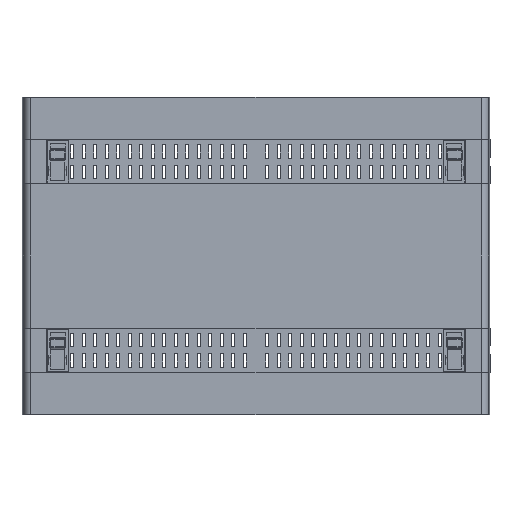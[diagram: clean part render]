
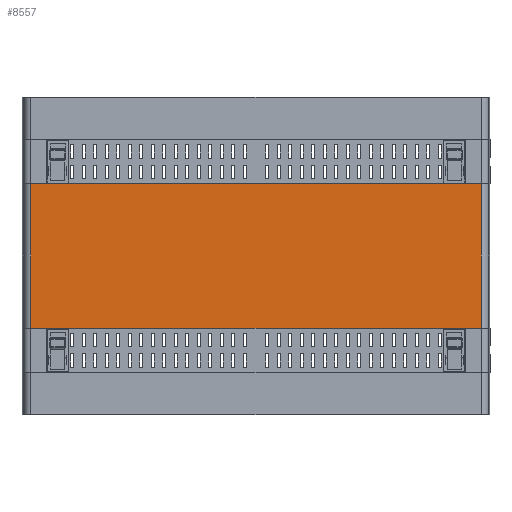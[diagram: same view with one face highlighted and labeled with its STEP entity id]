
A CAD part, front view. The second image highlights one B-rep face of the part: STEP entity #8557.
In plain terms, the highlighted planar face has unit normal (0, -1, 0).
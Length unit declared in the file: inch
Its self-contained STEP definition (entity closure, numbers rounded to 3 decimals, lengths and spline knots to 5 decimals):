
#3517 = AXIS2_PLACEMENT_3D ( 'NONE', #75424, #84813, #28810 ) ;
#3641 = ORIENTED_EDGE ( 'NONE', *, *, #5020, .F. ) ;
#5020 = EDGE_CURVE ( 'NONE', #89413, #39585, #21902, .T. ) ;
#5452 = DIRECTION ( 'NONE',  ( 1., 0., 0. ) ) ;
#6133 = LINE ( 'NONE', #96849, #102738 ) ;
#8557 = ADVANCED_FACE ( 'NONE', ( #108799 ), #19388, .F. ) ;
#8713 = CARTESIAN_POINT ( 'NONE',  ( -6.97974, 0., -2.236 ) ) ;
#10672 = DIRECTION ( 'NONE',  ( 0., 0., -1. ) ) ;
#11880 = ORIENTED_EDGE ( 'NONE', *, *, #89921, .T. ) ;
#14126 = ORIENTED_EDGE ( 'NONE', *, *, #44699, .F. ) ;
#19388 = PLANE ( 'NONE',  #3517 ) ;
#21902 = LINE ( 'NONE', #102245, #65823 ) ;
#22180 = CARTESIAN_POINT ( 'NONE',  ( -6.97974, 0., 4.925 ) ) ;
#28400 = EDGE_LOOP ( 'NONE', ( #11880, #46151, #14126, #3641 ) ) ;
#28810 = DIRECTION ( 'NONE',  ( 0., 0., 1. ) ) ;
#32271 = DIRECTION ( 'NONE',  ( 0., 0., -1. ) ) ;
#39076 = VERTEX_POINT ( 'NONE', #113923 ) ;
#39585 = VERTEX_POINT ( 'NONE', #80812 ) ;
#41311 = VECTOR ( 'NONE', #5452, 39.37008 ) ;
#44699 = EDGE_CURVE ( 'NONE', #39585, #39076, #6133, .T. ) ;
#46151 = ORIENTED_EDGE ( 'NONE', *, *, #100040, .T. ) ;
#54301 = VECTOR ( 'NONE', #10672, 39.37008 ) ;
#59907 = CARTESIAN_POINT ( 'NONE',  ( -6.97974, 0., 2.236 ) ) ;
#65003 = VERTEX_POINT ( 'NONE', #8713 ) ;
#65823 = VECTOR ( 'NONE', #92901, 39.37008 ) ;
#66164 = LINE ( 'NONE', #117110, #41311 ) ;
#75424 = CARTESIAN_POINT ( 'NONE',  ( 6.97974, 0., 4.925 ) ) ;
#79151 = LINE ( 'NONE', #22180, #54301 ) ;
#80812 = CARTESIAN_POINT ( 'NONE',  ( 6.97974, 0., 2.236 ) ) ;
#84813 = DIRECTION ( 'NONE',  ( 0., 1., 0. ) ) ;
#89413 = VERTEX_POINT ( 'NONE', #59907 ) ;
#89921 = EDGE_CURVE ( 'NONE', #89413, #65003, #79151, .T. ) ;
#92901 = DIRECTION ( 'NONE',  ( 1., 0., 0. ) ) ;
#96849 = CARTESIAN_POINT ( 'NONE',  ( 6.97974, 0., 4.925 ) ) ;
#100040 = EDGE_CURVE ( 'NONE', #65003, #39076, #66164, .T. ) ;
#102245 = CARTESIAN_POINT ( 'NONE',  ( -9.361, 0., 2.236 ) ) ;
#102738 = VECTOR ( 'NONE', #32271, 39.37008 ) ;
#108799 = FACE_OUTER_BOUND ( 'NONE', #28400, .T. ) ;
#113923 = CARTESIAN_POINT ( 'NONE',  ( 6.97974, 0., -2.236 ) ) ;
#117110 = CARTESIAN_POINT ( 'NONE',  ( -9.361, 0., -2.236 ) ) ;
